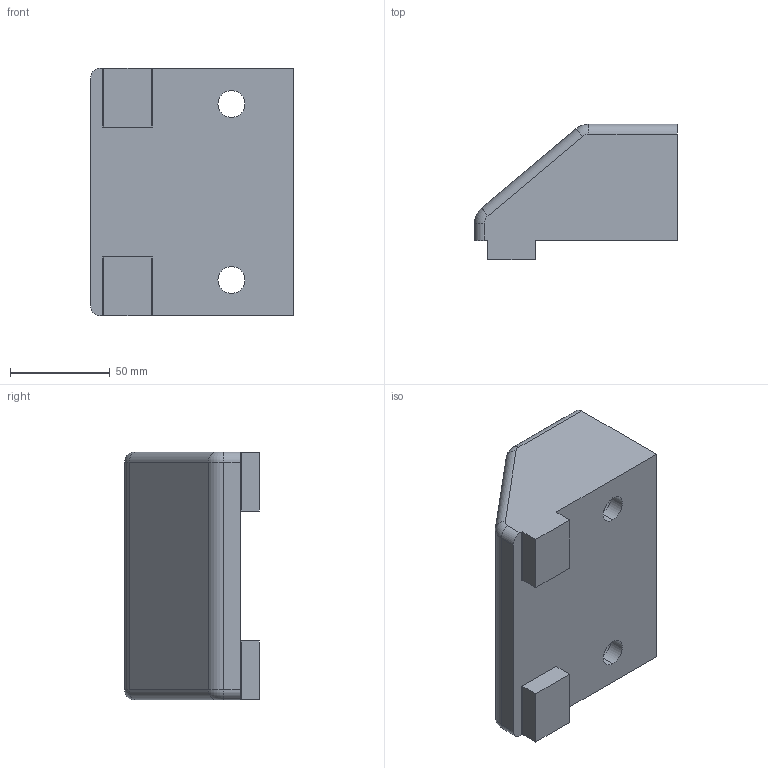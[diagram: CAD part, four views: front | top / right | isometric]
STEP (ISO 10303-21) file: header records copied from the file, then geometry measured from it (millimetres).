
FILE_DESCRIPTION (( 'STEP AP203' ), '1' );
FILE_NAME ('6921684088000.STEP', '2008-08-07T11:23:49', ( 'Markus Römer' ), ( '' ), 'SwSTEP 2.0', 'SolidWorks 2007', '' );
FILE_SCHEMA (( 'CONFIG_CONTROL_DESIGN' ));
Length unit declared in the file: millimetre
Products named in the file (1): 6921684088000
Bounding box: 101.5 x 67.5 x 124 mm (x, y, z)
Volume: 558898.6 mm3; surface area: 53084.5 mm2
Topology: 1 solids, 1 shells, 41 faces, 103 edges, 66 vertices
Faces by surface type: cylinder 20, plane 17, torus 4
Entity records: 1322 total; most frequent: DIRECTION 231, CARTESIAN_POINT 211, ORIENTED_EDGE 206, EDGE_CURVE 103, AXIS2_PLACEMENT_3D 86, VERTEX_POINT 66, VECTOR 59, LINE 59
